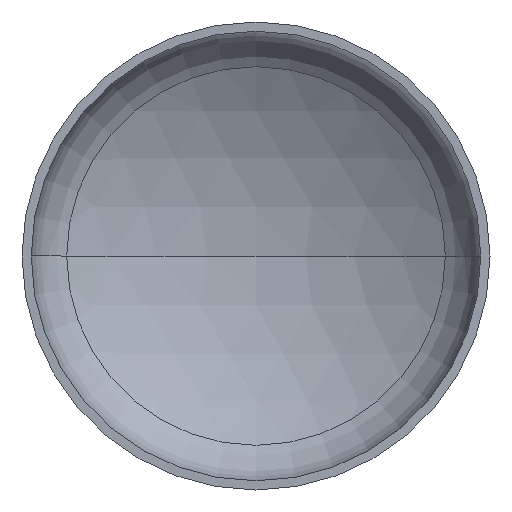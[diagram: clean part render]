
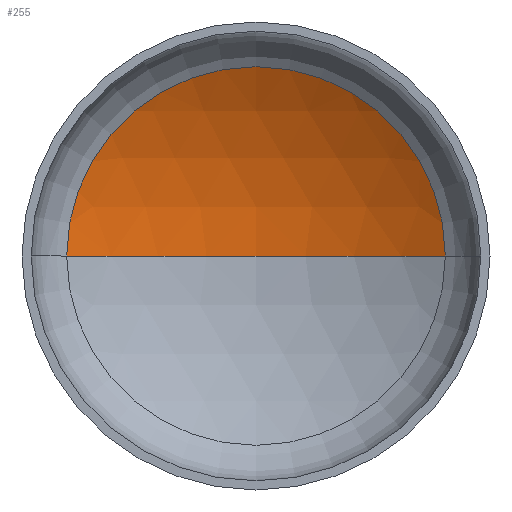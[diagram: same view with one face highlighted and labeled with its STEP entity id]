
A CAD part, front view. The second image highlights one B-rep face of the part: STEP entity #255.
In plain terms, the highlighted spherical face has radius 406 mm.
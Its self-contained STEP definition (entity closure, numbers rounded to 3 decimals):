
#2 = VERTEX_POINT ( 'NONE', #262 ) ;
#13 = EDGE_LOOP ( 'NONE', ( #93, #48, #110 ) ) ;
#17 = DIRECTION ( 'NONE',  ( 1., 0., 0. ) ) ;
#24 = DIRECTION ( 'NONE',  ( 0., 0., 1. ) ) ;
#42 = SPHERICAL_SURFACE ( 'NONE', #60, 406. ) ;
#48 = ORIENTED_EDGE ( 'NONE', *, *, #226, .T. ) ;
#60 = AXIS2_PLACEMENT_3D ( 'NONE', #217, #278, #140 ) ;
#62 = VERTEX_POINT ( 'NONE', #324 ) ;
#83 = AXIS2_PLACEMENT_3D ( 'NONE', #147, #24, #17 ) ;
#91 = AXIS2_PLACEMENT_3D ( 'NONE', #244, #242, #241 ) ;
#93 = ORIENTED_EDGE ( 'NONE', *, *, #230, .F. ) ;
#105 = AXIS2_PLACEMENT_3D ( 'NONE', #265, #263, #280 ) ;
#110 = ORIENTED_EDGE ( 'NONE', *, *, #225, .T. ) ;
#119 = VERTEX_POINT ( 'NONE', #318 ) ;
#140 = DIRECTION ( 'NONE',  ( -1., 0., 0. ) ) ;
#147 = CARTESIAN_POINT ( 'NONE',  ( 0., -252.892, 0. ) ) ;
#181 = CIRCLE ( 'NONE', #105, 205.476 ) ;
#217 = CARTESIAN_POINT ( 'NONE',  ( 0., -252.892, 0. ) ) ;
#225 = EDGE_CURVE ( 'NONE', #62, #119, #181, .T. ) ;
#226 = EDGE_CURVE ( 'NONE', #2, #62, #317, .T. ) ;
#230 = EDGE_CURVE ( 'NONE', #2, #119, #377, .T. ) ;
#241 = DIRECTION ( 'NONE',  ( -1., 0., 0. ) ) ;
#242 = DIRECTION ( 'NONE',  ( 0., 0., -1. ) ) ;
#244 = CARTESIAN_POINT ( 'NONE',  ( 0., -252.892, 0. ) ) ;
#255 = ADVANCED_FACE ( 'NONE', ( #258 ), #42, .F. ) ;
#258 = FACE_OUTER_BOUND ( 'NONE', #13, .T. ) ;
#262 = CARTESIAN_POINT ( 'NONE',  ( 0., 153.108, 0. ) ) ;
#263 = DIRECTION ( 'NONE',  ( 0., -1., 0. ) ) ;
#265 = CARTESIAN_POINT ( 'NONE',  ( 0., 97.273, 0. ) ) ;
#278 = DIRECTION ( 'NONE',  ( 0., 0., -1. ) ) ;
#280 = DIRECTION ( 'NONE',  ( 1., 0., 0. ) ) ;
#317 = CIRCLE ( 'NONE', #91, 406. ) ;
#318 = CARTESIAN_POINT ( 'NONE',  ( -205.476, 97.273, 0. ) ) ;
#324 = CARTESIAN_POINT ( 'NONE',  ( 205.476, 97.273, 0. ) ) ;
#377 = CIRCLE ( 'NONE', #83, 406. ) ;
